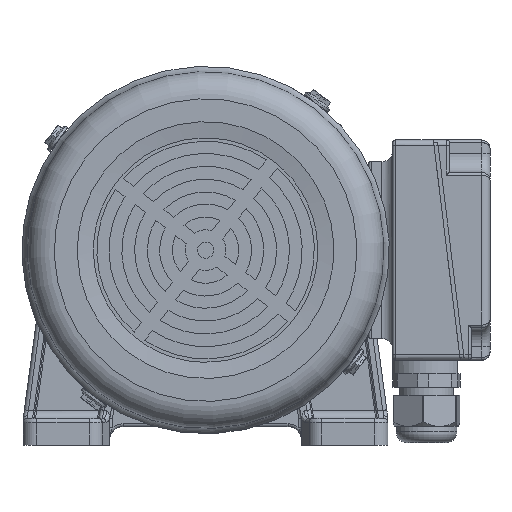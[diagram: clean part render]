
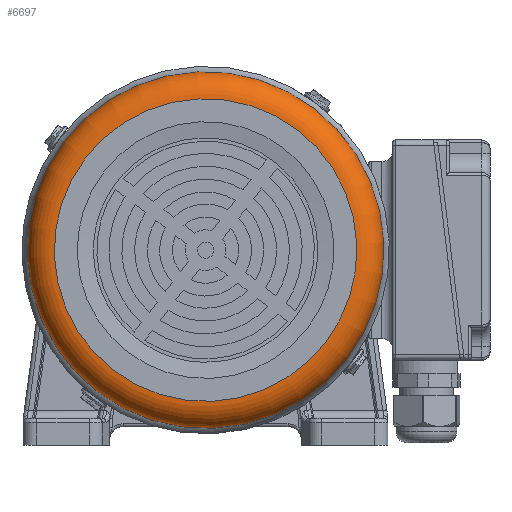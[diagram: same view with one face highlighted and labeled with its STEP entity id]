
A CAD part, left-side view. The second image highlights one B-rep face of the part: STEP entity #6697.
In plain terms, the highlighted toroidal (fillet/blend) face has major radius 56 mm and minor radius 10 mm.
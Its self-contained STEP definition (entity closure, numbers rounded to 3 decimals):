
#1091=FACE_BOUND('',#16093,.T.);
#1092=FACE_BOUND('',#16094,.T.);
#3708=TOROIDAL_SURFACE('',#69268,56.,10.);
#6697=ADVANCED_FACE('',(#1091,#1092),#3708,.T.);
#16093=EDGE_LOOP('',(#27126));
#16094=EDGE_LOOP('',(#27127));
#27126=ORIENTED_EDGE('',*,*,#47899,.T.);
#27127=ORIENTED_EDGE('',*,*,#46207,.F.);
#38972=VERTEX_POINT('',#99999);
#40080=VERTEX_POINT('',#106666);
#46207=EDGE_CURVE('',#38972,#38972,#64244,.T.);
#47899=EDGE_CURVE('',#40080,#40080,#64841,.T.);
#64244=CIRCLE('',#68112,56.);
#64841=CIRCLE('',#69267,66.);
#68112=AXIS2_PLACEMENT_3D('',#99998,#78184,#78185);
#69267=AXIS2_PLACEMENT_3D('',#106665,#81304,#81305);
#69268=AXIS2_PLACEMENT_3D('',#106667,#81306,#81307);
#78184=DIRECTION('',(-1.,0.,0.));
#78185=DIRECTION('',(0.,-0.609,0.793));
#81304=DIRECTION('',(-1.,0.,0.));
#81305=DIRECTION('',(0.,-0.609,0.793));
#81306=DIRECTION('',(-1.,0.,0.));
#81307=DIRECTION('',(0.,-0.609,0.793));
#99998=CARTESIAN_POINT('',(-190.671,-55.463,-77.2));
#99999=CARTESIAN_POINT('',(-190.671,-89.553,-32.773));
#106665=CARTESIAN_POINT('',(-180.671,-55.463,-77.2));
#106666=CARTESIAN_POINT('',(-180.671,-95.641,-24.839));
#106667=CARTESIAN_POINT('',(-180.671,-55.463,-77.2));
